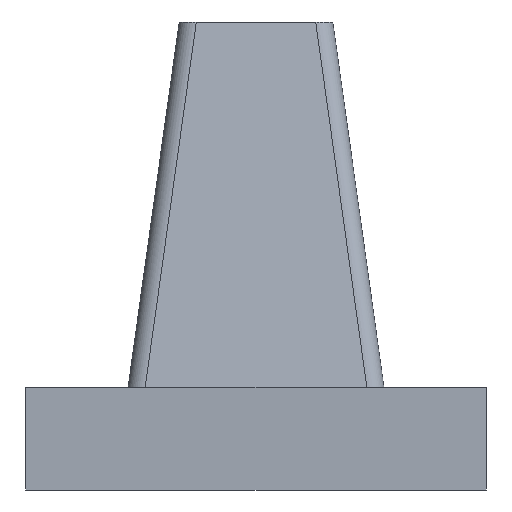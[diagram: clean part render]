
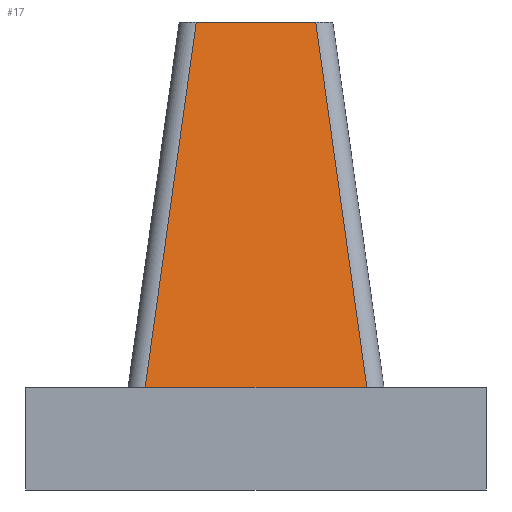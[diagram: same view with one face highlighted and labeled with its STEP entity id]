
A CAD part, left-side view. The second image highlights one B-rep face of the part: STEP entity #17.
In plain terms, the highlighted free-form (B-spline) face has degree [1, 1] with [2, 2] control points.
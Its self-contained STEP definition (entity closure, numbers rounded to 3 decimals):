
#17 = ADVANCED_FACE('',(#18),#32,.T.);
#18 = FACE_BOUND('',#19,.T.);
#19 = EDGE_LOOP('',(#20,#54,#93,#118));
#20 = ORIENTED_EDGE('',*,*,#21,.F.);
#21 = EDGE_CURVE('',#22,#24,#26,.T.);
#22 = VERTEX_POINT('',#23);
#23 = CARTESIAN_POINT('',(-1.25,1.75,13.71));
#24 = VERTEX_POINT('',#25);
#25 = CARTESIAN_POINT('',(-1.25,-1.75,13.71));
#26 = SURFACE_CURVE('',#27,(#31,#42),.PCURVE_S1.);
#27 = LINE('',#28,#29);
#28 = CARTESIAN_POINT('',(-1.25,0.,13.71));
#29 = VECTOR('',#30,1.);
#30 = DIRECTION('',(0.,-1.,0.));
#31 = PCURVE('',#32,#37);
#32 = B_SPLINE_SURFACE_WITH_KNOTS('',1,1,(
    (#33,#34)
    ,(#35,#36
    )),.UNSPECIFIED.,.F.,.F.,.F.,(2,2),(2,2),(-3.25,3.25),(0.,1.),
  .PIECEWISE_BEZIER_KNOTS.);
#33 = CARTESIAN_POINT('',(-1.25,-1.75,13.71));
#34 = CARTESIAN_POINT('',(-3.,-3.25,3.));
#35 = CARTESIAN_POINT('',(-1.25,1.75,13.71));
#36 = CARTESIAN_POINT('',(-3.,3.25,3.));
#37 = DEFINITIONAL_REPRESENTATION('',(#38),#41);
#38 = B_SPLINE_CURVE_WITH_KNOTS('',1,(#39,#40),.UNSPECIFIED.,.F.,.F.,(2,
    2),(-1.75,1.75),.PIECEWISE_BEZIER_KNOTS.);
#39 = CARTESIAN_POINT('',(3.25,0.));
#40 = CARTESIAN_POINT('',(-3.25,0.));
#41 = ( GEOMETRIC_REPRESENTATION_CONTEXT(2) 
PARAMETRIC_REPRESENTATION_CONTEXT() REPRESENTATION_CONTEXT('2D SPACE',''
  ) );
#42 = PCURVE('',#43,#48);
#43 = PLANE('',#44);
#44 = AXIS2_PLACEMENT_3D('',#45,#46,#47);
#45 = CARTESIAN_POINT('',(-0.75,-1.75,13.71));
#46 = DIRECTION('',(0.,0.,-1.));
#47 = DIRECTION('',(1.,0.,0.));
#48 = DEFINITIONAL_REPRESENTATION('',(#49),#53);
#49 = LINE('',#50,#51);
#50 = CARTESIAN_POINT('',(-0.5,-1.75));
#51 = VECTOR('',#52,1.);
#52 = DIRECTION('',(0.,1.));
#53 = ( GEOMETRIC_REPRESENTATION_CONTEXT(2) 
PARAMETRIC_REPRESENTATION_CONTEXT() REPRESENTATION_CONTEXT('2D SPACE',''
  ) );
#54 = ORIENTED_EDGE('',*,*,#55,.T.);
#55 = EDGE_CURVE('',#22,#56,#58,.T.);
#56 = VERTEX_POINT('',#57);
#57 = CARTESIAN_POINT('',(-2.998,3.249,3.01));
#58 = SURFACE_CURVE('',#59,(#62,#69),.PCURVE_S1.);
#59 = B_SPLINE_CURVE_WITH_KNOTS('',1,(#60,#61),.UNSPECIFIED.,.F.,.F.,(2,
    2),(0.,1.),.PIECEWISE_BEZIER_KNOTS.);
#60 = CARTESIAN_POINT('',(-1.25,1.75,13.71));
#61 = CARTESIAN_POINT('',(-3.,3.25,3.));
#62 = PCURVE('',#32,#63);
#63 = DEFINITIONAL_REPRESENTATION('',(#64),#68);
#64 = LINE('',#65,#66);
#65 = CARTESIAN_POINT('',(3.25,0.));
#66 = VECTOR('',#67,1.);
#67 = DIRECTION('',(0.,1.));
#68 = ( GEOMETRIC_REPRESENTATION_CONTEXT(2) 
PARAMETRIC_REPRESENTATION_CONTEXT() REPRESENTATION_CONTEXT('2D SPACE',''
  ) );
#69 = PCURVE('',#70,#87);
#70 = B_SPLINE_SURFACE_WITH_KNOTS('',7,1,(
    (#71,#72)
    ,(#73,#74)
    ,(#75,#76)
    ,(#77,#78)
    ,(#79,#80)
    ,(#81,#82)
    ,(#83,#84)
    ,(#85,#86
    )),.UNSPECIFIED.,.F.,.F.,.F.,(8,8),(2,2),(3.142,
    4.712),(0.,1.),.PIECEWISE_BEZIER_KNOTS.);
#71 = CARTESIAN_POINT('',(-1.25,1.75,13.71));
#72 = CARTESIAN_POINT('',(-3.,3.25,3.));
#73 = CARTESIAN_POINT('',(-1.25,1.862,13.71));
#74 = CARTESIAN_POINT('',(-3.,3.362,3.));
#75 = CARTESIAN_POINT('',(-1.221,1.974,13.71));
#76 = CARTESIAN_POINT('',(-2.971,3.474,3.));
#77 = CARTESIAN_POINT('',(-1.162,2.077,13.71)
  );
#78 = CARTESIAN_POINT('',(-2.912,3.577,3.));
#79 = CARTESIAN_POINT('',(-1.077,2.162,13.71));
#80 = CARTESIAN_POINT('',(-2.827,3.662,3.));
#81 = CARTESIAN_POINT('',(-0.974,2.221,13.71));
#82 = CARTESIAN_POINT('',(-2.724,3.721,3.));
#83 = CARTESIAN_POINT('',(-0.862,2.25,13.71));
#84 = CARTESIAN_POINT('',(-2.612,3.75,3.));
#85 = CARTESIAN_POINT('',(-0.75,2.25,13.71));
#86 = CARTESIAN_POINT('',(-2.5,3.75,3.));
#87 = DEFINITIONAL_REPRESENTATION('',(#88),#92);
#88 = LINE('',#89,#90);
#89 = CARTESIAN_POINT('',(3.142,0.));
#90 = VECTOR('',#91,1.);
#91 = DIRECTION('',(0.,1.));
#92 = ( GEOMETRIC_REPRESENTATION_CONTEXT(2) 
PARAMETRIC_REPRESENTATION_CONTEXT() REPRESENTATION_CONTEXT('2D SPACE',''
  ) );
#93 = ORIENTED_EDGE('',*,*,#94,.T.);
#94 = EDGE_CURVE('',#56,#95,#97,.T.);
#95 = VERTEX_POINT('',#96);
#96 = CARTESIAN_POINT('',(-2.998,-3.249,3.01));
#97 = SURFACE_CURVE('',#98,(#101,#107),.PCURVE_S1.);
#98 = B_SPLINE_CURVE_WITH_KNOTS('',1,(#99,#100),.UNSPECIFIED.,.F.,.F.,(2
    ,2),(0.,1.),.PIECEWISE_BEZIER_KNOTS.);
#99 = CARTESIAN_POINT('',(-2.998,3.249,3.01));
#100 = CARTESIAN_POINT('',(-2.998,-3.249,3.01));
#101 = PCURVE('',#32,#102);
#102 = DEFINITIONAL_REPRESENTATION('',(#103),#106);
#103 = B_SPLINE_CURVE_WITH_KNOTS('',1,(#104,#105),.UNSPECIFIED.,.F.,.F.,
  (2,2),(0.,1.),.PIECEWISE_BEZIER_KNOTS.);
#104 = CARTESIAN_POINT('',(3.25,0.999));
#105 = CARTESIAN_POINT('',(-3.25,0.999));
#106 = ( GEOMETRIC_REPRESENTATION_CONTEXT(2) 
PARAMETRIC_REPRESENTATION_CONTEXT() REPRESENTATION_CONTEXT('2D SPACE',''
  ) );
#107 = PCURVE('',#108,#113);
#108 = PLANE('',#109);
#109 = AXIS2_PLACEMENT_3D('',#110,#111,#112);
#110 = CARTESIAN_POINT('',(-6.,-6.75,3.01));
#111 = DIRECTION('',(0.,0.,1.));
#112 = DIRECTION('',(1.,0.,-0.));
#113 = DEFINITIONAL_REPRESENTATION('',(#114),#117);
#114 = B_SPLINE_CURVE_WITH_KNOTS('',1,(#115,#116),.UNSPECIFIED.,.F.,.F.,
  (2,2),(0.,1.),.PIECEWISE_BEZIER_KNOTS.);
#115 = CARTESIAN_POINT('',(3.002,9.999));
#116 = CARTESIAN_POINT('',(3.002,3.501));
#117 = ( GEOMETRIC_REPRESENTATION_CONTEXT(2) 
PARAMETRIC_REPRESENTATION_CONTEXT() REPRESENTATION_CONTEXT('2D SPACE',''
  ) );
#118 = ORIENTED_EDGE('',*,*,#119,.F.);
#119 = EDGE_CURVE('',#24,#95,#120,.T.);
#120 = SURFACE_CURVE('',#121,(#124,#131),.PCURVE_S1.);
#121 = B_SPLINE_CURVE_WITH_KNOTS('',1,(#122,#123),.UNSPECIFIED.,.F.,.F.,
  (2,2),(0.,1.),.PIECEWISE_BEZIER_KNOTS.);
#122 = CARTESIAN_POINT('',(-1.25,-1.75,13.71));
#123 = CARTESIAN_POINT('',(-3.,-3.25,3.));
#124 = PCURVE('',#32,#125);
#125 = DEFINITIONAL_REPRESENTATION('',(#126),#130);
#126 = LINE('',#127,#128);
#127 = CARTESIAN_POINT('',(-3.25,0.));
#128 = VECTOR('',#129,1.);
#129 = DIRECTION('',(0.,1.));
#130 = ( GEOMETRIC_REPRESENTATION_CONTEXT(2) 
PARAMETRIC_REPRESENTATION_CONTEXT() REPRESENTATION_CONTEXT('2D SPACE',''
  ) );
#131 = PCURVE('',#132,#149);
#132 = B_SPLINE_SURFACE_WITH_KNOTS('',7,1,(
    (#133,#134)
    ,(#135,#136)
    ,(#137,#138)
    ,(#139,#140)
    ,(#141,#142)
    ,(#143,#144)
    ,(#145,#146)
    ,(#147,#148
    )),.UNSPECIFIED.,.F.,.F.,.F.,(8,8),(2,2),(1.571,
    3.142),(0.,1.),.PIECEWISE_BEZIER_KNOTS.);
#133 = CARTESIAN_POINT('',(-0.75,-2.25,13.71));
#134 = CARTESIAN_POINT('',(-2.5,-3.75,3.));
#135 = CARTESIAN_POINT('',(-0.862,-2.25,13.71));
#136 = CARTESIAN_POINT('',(-2.612,-3.75,3.));
#137 = CARTESIAN_POINT('',(-0.974,-2.221,13.71));
#138 = CARTESIAN_POINT('',(-2.724,-3.721,3.));
#139 = CARTESIAN_POINT('',(-1.077,-2.162,13.71));
#140 = CARTESIAN_POINT('',(-2.827,-3.662,3.));
#141 = CARTESIAN_POINT('',(-1.162,-2.077,13.71));
#142 = CARTESIAN_POINT('',(-2.912,-3.577,3.));
#143 = CARTESIAN_POINT('',(-1.221,-1.974,13.71));
#144 = CARTESIAN_POINT('',(-2.971,-3.474,3.));
#145 = CARTESIAN_POINT('',(-1.25,-1.862,13.71));
#146 = CARTESIAN_POINT('',(-3.,-3.362,3.));
#147 = CARTESIAN_POINT('',(-1.25,-1.75,13.71));
#148 = CARTESIAN_POINT('',(-3.,-3.25,3.));
#149 = DEFINITIONAL_REPRESENTATION('',(#150),#154);
#150 = LINE('',#151,#152);
#151 = CARTESIAN_POINT('',(3.142,0.));
#152 = VECTOR('',#153,1.);
#153 = DIRECTION('',(0.,1.));
#154 = ( GEOMETRIC_REPRESENTATION_CONTEXT(2) 
PARAMETRIC_REPRESENTATION_CONTEXT() REPRESENTATION_CONTEXT('2D SPACE',''
  ) );
